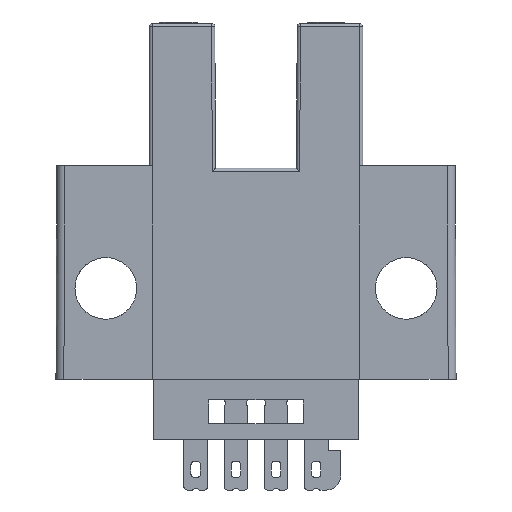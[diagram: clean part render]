
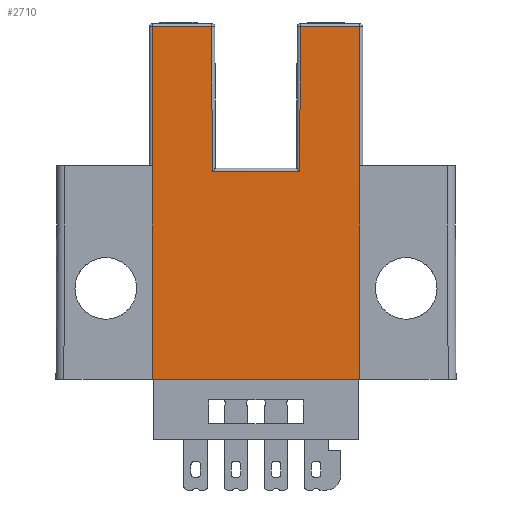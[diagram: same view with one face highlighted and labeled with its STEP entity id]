
A CAD part, left-side view. The second image highlights one B-rep face of the part: STEP entity #2710.
In plain terms, the highlighted planar face has unit normal (-1, 0, 0).
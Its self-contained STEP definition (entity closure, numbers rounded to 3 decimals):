
#697=DIRECTION('',(0.,-1.,0.));
#698=VECTOR('',#697,13.1);
#699=CARTESIAN_POINT('',(-3.2,28.441,-0.3));
#700=LINE('',#699,#698);
#701=DIRECTION('',(0.,0.,-1.));
#702=VECTOR('',#701,13.5);
#703=CARTESIAN_POINT('',(-3.2,28.441,13.2));
#704=LINE('',#703,#702);
#705=DIRECTION('',(0.,0.003,1.));
#706=VECTOR('',#705,9.15);
#707=CARTESIAN_POINT('',(-3.2,24.66,12.85));
#708=LINE('',#707,#706);
#709=DIRECTION('',(0.,0.003,-1.));
#710=VECTOR('',#709,9.15);
#711=CARTESIAN_POINT('',(-3.2,19.089,22.));
#712=LINE('',#711,#710);
#713=DIRECTION('',(0.,0.,1.));
#714=VECTOR('',#713,13.5);
#715=CARTESIAN_POINT('',(-3.2,15.341,-0.3));
#716=LINE('',#715,#714);
#730=DIRECTION('',(0.,0.,1.));
#731=VECTOR('',#730,8.8);
#732=CARTESIAN_POINT('',(-3.2,28.441,13.2));
#733=LINE('',#732,#731);
#789=DIRECTION('',(0.,-1.,0.));
#790=VECTOR('',#789,3.749);
#791=CARTESIAN_POINT('',(-3.2,28.441,22.));
#792=LINE('',#791,#790);
#816=CARTESIAN_POINT('',(-3.2,24.66,12.85));
#1050=DIRECTION('',(0.,0.,-1.));
#1051=VECTOR('',#1050,8.8);
#1052=CARTESIAN_POINT('',(-3.2,15.341,22.));
#1053=LINE('',#1052,#1051);
#1109=DIRECTION('',(0.,-1.,0.));
#1110=VECTOR('',#1109,3.749);
#1111=CARTESIAN_POINT('',(-3.2,19.089,22.));
#1112=LINE('',#1111,#1110);
#1148=DIRECTION('',(0.,-1.,0.));
#1149=VECTOR('',#1148,5.539);
#1150=CARTESIAN_POINT('',(-3.2,24.66,12.85));
#1151=LINE('',#1150,#1149);
#1156=CARTESIAN_POINT('',(-3.2,19.121,12.85));
#1807=VERTEX_POINT('',#1156);
#1809=CARTESIAN_POINT('',(-3.2,19.089,22.));
#1810=VERTEX_POINT('',#1809);
#1811=VERTEX_POINT('',#816);
#1814=CARTESIAN_POINT('',(-3.2,24.692,22.));
#1816=VERTEX_POINT('',#1814);
#1825=CARTESIAN_POINT('',(-3.2,28.441,22.));
#1826=VERTEX_POINT('',#1825);
#1831=CARTESIAN_POINT('',(-3.2,15.341,22.));
#1832=VERTEX_POINT('',#1831);
#2031=CARTESIAN_POINT('',(-3.2,15.341,13.2));
#2032=VERTEX_POINT('',#2031);
#2033=CARTESIAN_POINT('',(-3.2,28.441,13.2));
#2034=VERTEX_POINT('',#2033);
#2035=CARTESIAN_POINT('',(-3.2,28.441,-0.3));
#2036=CARTESIAN_POINT('',(-3.2,15.341,-0.3));
#2037=VERTEX_POINT('',#2035);
#2038=VERTEX_POINT('',#2036);
#2685=CARTESIAN_POINT('',(-3.2,21.891,-4.1));
#2686=DIRECTION('',(-1.,0.,0.));
#2687=DIRECTION('',(0.,0.,-1.));
#2688=AXIS2_PLACEMENT_3D('',#2685,#2686,#2687);
#2689=PLANE('',#2688);
#2690=ORIENTED_EDGE('',*,*,#2190,.F.);
#2692=ORIENTED_EDGE('',*,*,#2691,.F.);
#2694=ORIENTED_EDGE('',*,*,#2693,.T.);
#2696=ORIENTED_EDGE('',*,*,#2695,.T.);
#2698=ORIENTED_EDGE('',*,*,#2697,.F.);
#2700=ORIENTED_EDGE('',*,*,#2699,.T.);
#2702=ORIENTED_EDGE('',*,*,#2701,.F.);
#2704=ORIENTED_EDGE('',*,*,#2703,.T.);
#2706=ORIENTED_EDGE('',*,*,#2705,.T.);
#2707=ORIENTED_EDGE('',*,*,#2678,.F.);
#2708=EDGE_LOOP('',(#2690,#2692,#2694,#2696,#2698,#2700,#2702,#2704,#2706,
#2707));
#2709=FACE_OUTER_BOUND('',#2708,.F.);
#2710=ADVANCED_FACE('',(#2709),#2689,.T.);
#2190=EDGE_CURVE('',#2037,#2038,#700,.T.);
#2678=EDGE_CURVE('',#2038,#2032,#716,.T.);
#2691=EDGE_CURVE('',#2034,#2037,#704,.T.);
#2693=EDGE_CURVE('',#2034,#1826,#733,.T.);
#2695=EDGE_CURVE('',#1826,#1816,#792,.T.);
#2697=EDGE_CURVE('',#1811,#1816,#708,.T.);
#2699=EDGE_CURVE('',#1811,#1807,#1151,.T.);
#2701=EDGE_CURVE('',#1810,#1807,#712,.T.);
#2703=EDGE_CURVE('',#1810,#1832,#1112,.T.);
#2705=EDGE_CURVE('',#1832,#2032,#1053,.T.);
